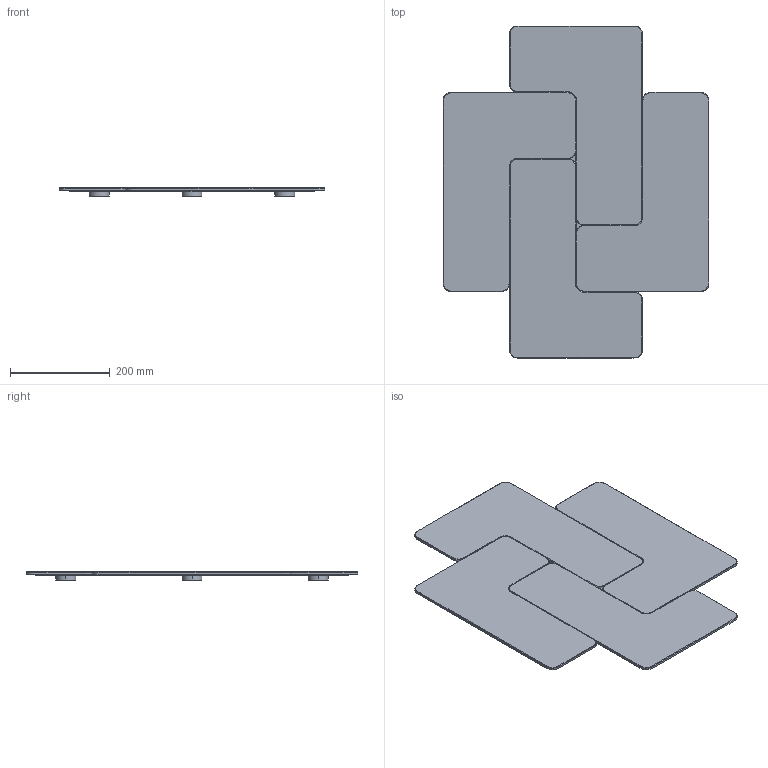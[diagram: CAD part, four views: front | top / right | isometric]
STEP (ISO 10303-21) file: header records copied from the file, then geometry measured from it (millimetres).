
FILE_DESCRIPTION(/* description */ (''),/* implementation_level */ '2;1');
FILE_NAME(/* name */ 'T66 - Tetris mod.A',/* time_stamp */ '2010-12-09T16:30:56+01:00',/* author */ (''),/* organization */ (''),/* preprocessor_version */ 'ST-DEVELOPER v10',/* originating_system */ '',/* authorisation */ '');
FILE_SCHEMA (('CONFIG_CONTROL_DESIGN'));
Length unit declared in the file: centimetre
Products named in the file (1): 1
Bounding box: 532 x 665 x 16.5 mm (x, y, z)
Volume: 1809726.8 mm3; surface area: 1076562.5 mm2
Topology: 9 solids, 9 shells, 44 faces, 70 edges, 44 vertices
Faces by surface type: bspline 26, plane 18
Entity records: 2090 total; most frequent: CARTESIAN_POINT 1492, ORIENTED_EDGE 140, EDGE_CURVE 70, ADVANCED_FACE 44, FACE_OUTER_BOUND 44, EDGE_LOOP 44, VERTEX_POINT 44, B_SPLINE_CURVE_WITH_KNOTS 42
